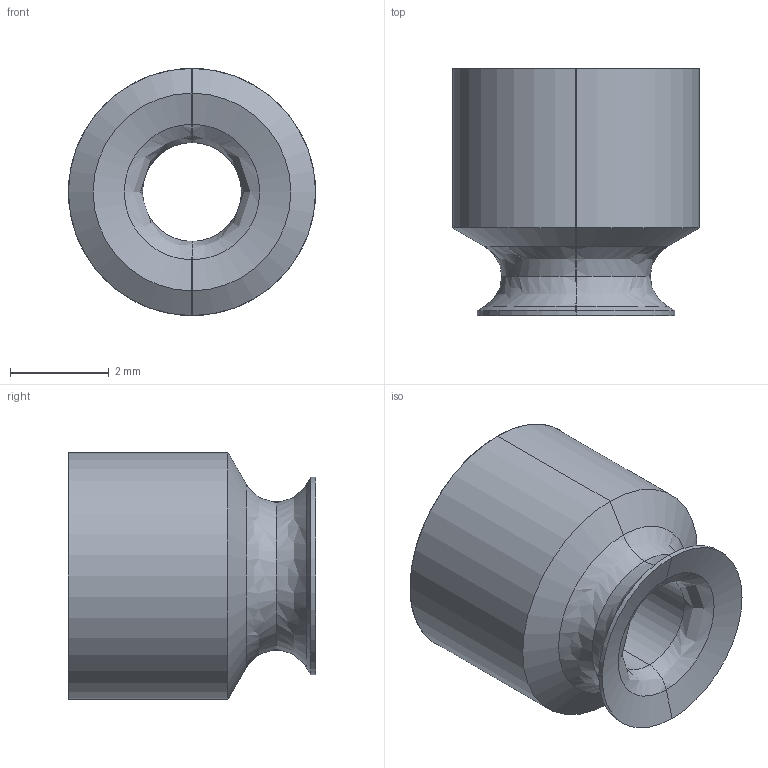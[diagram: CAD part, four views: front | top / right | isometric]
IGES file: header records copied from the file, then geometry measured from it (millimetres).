
Start section: SolidWorks IGES file using analytic representation for surfaces
Global section: file name: C:\Documents and Settings\CAD53\デスクトップ\IGES\N01891-202-0.IGS; native system: SolidWorks 2006 by SolidWorks Corporation; preprocessor: SolidWorks 2006 by SolidWorks Corporation; author: CAD53; date: 070530.185518; units: millimetre
Bounding box: 5 x 5 x 5 mm (x, y, z)
Surface area: 150 mm2 (no closed solid volume)
Topology: 0 solids, 0 shells, 33 faces, 312 edges, 312 vertices
Faces by surface type: bspline 17, revolution 16
